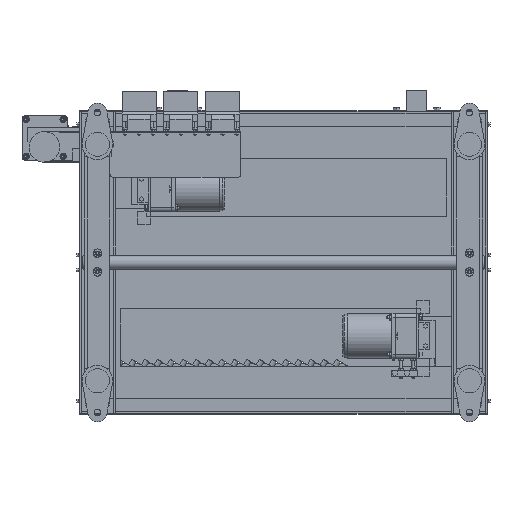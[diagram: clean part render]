
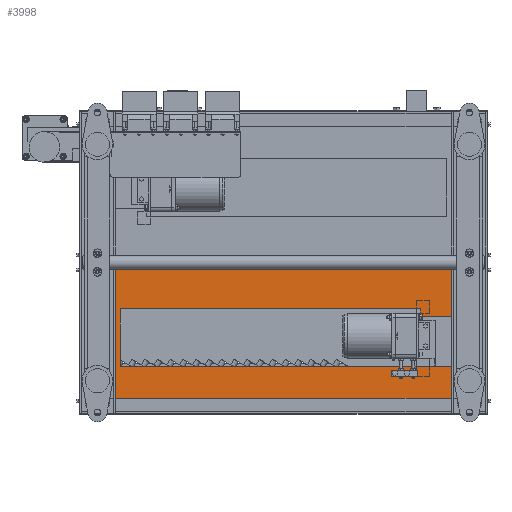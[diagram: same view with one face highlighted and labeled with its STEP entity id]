
A CAD part, front view. The second image highlights one B-rep face of the part: STEP entity #3998.
In plain terms, the highlighted planar face has unit normal (0, -1, 0).
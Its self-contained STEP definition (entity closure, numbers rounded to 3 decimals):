
#3998=ADVANCED_FACE('',(#12672,#12673),#12671,.F.);
#12671=PLANE('',#39715);
#12672=FACE_OUTER_BOUND('',#39716,.T.);
#12673=FACE_BOUND('',#39717,.T.);
#39712=CARTESIAN_POINT('',(817.,-93.,-307.));
#39713=DIRECTION('',(0.,1.,0.));
#39714=DIRECTION('',(-1.,0.,0.));
#39715=AXIS2_PLACEMENT_3D('',#39712,#39713,#39714);
#39716=EDGE_LOOP('',(#57392,#57393,#57394,#57395));
#39717=EDGE_LOOP('',(#57396,#57397,#57398,#57399,#57400,#57401));
#57392=ORIENTED_EDGE('',*,*,#70887,.T.);
#57393=ORIENTED_EDGE('',*,*,#70888,.F.);
#57394=ORIENTED_EDGE('',*,*,#70889,.F.);
#57395=ORIENTED_EDGE('',*,*,#70890,.T.);
#57396=ORIENTED_EDGE('',*,*,#70875,.T.);
#57397=ORIENTED_EDGE('',*,*,#70878,.T.);
#57398=ORIENTED_EDGE('',*,*,#70881,.T.);
#57399=ORIENTED_EDGE('',*,*,#70884,.T.);
#57400=ORIENTED_EDGE('',*,*,#70886,.T.);
#57401=ORIENTED_EDGE('',*,*,#70872,.T.);
#70872=EDGE_CURVE('',#88299,#88313,#88320,.T.);
#70875=EDGE_CURVE('',#88313,#88333,#88340,.T.);
#70878=EDGE_CURVE('',#88333,#88353,#88360,.T.);
#70881=EDGE_CURVE('',#88353,#88373,#88380,.T.);
#70884=EDGE_CURVE('',#88373,#88393,#88400,.T.);
#70886=EDGE_CURVE('',#88393,#88299,#88412,.T.);
#70887=EDGE_CURVE('',#88418,#88419,#88420,.T.);
#70888=EDGE_CURVE('',#88426,#88419,#88427,.T.);
#70889=EDGE_CURVE('',#88433,#88426,#88434,.T.);
#70890=EDGE_CURVE('',#88433,#88418,#88440,.T.);
#88299=VERTEX_POINT('',#134370);
#88313=VERTEX_POINT('',#134378);
#88320=LINE('',#134382,#134383);
#88333=VERTEX_POINT('',#134389);
#88340=LINE('',#134393,#134394);
#88353=VERTEX_POINT('',#134400);
#88360=LINE('',#134404,#134405);
#88373=VERTEX_POINT('',#134411);
#88380=LINE('',#134415,#134416);
#88393=VERTEX_POINT('',#134422);
#88400=LINE('',#134426,#134427);
#88412=LINE('',#134432,#134433);
#88418=VERTEX_POINT('',#134435);
#88419=VERTEX_POINT('',#134436);
#88420=LINE('',#134437,#134438);
#88426=VERTEX_POINT('',#134440);
#88427=LINE('',#134441,#134442);
#88433=VERTEX_POINT('',#134444);
#88434=LINE('',#134445,#134446);
#88440=LINE('',#134448,#134449);
#134370=CARTESIAN_POINT('',(80.,-93.,-92.));
#134378=CARTESIAN_POINT('',(677.,-93.,-92.));
#134382=CARTESIAN_POINT('',(80.,-93.,-92.));
#134383=VECTOR('',#134384,597.);
#134384=DIRECTION('',(1.,0.,0.));
#134389=CARTESIAN_POINT('',(677.,-93.,-107.));
#134393=CARTESIAN_POINT('',(677.,-93.,-92.));
#134394=VECTOR('',#134395,15.);
#134395=DIRECTION('',(0.,0.,-1.));
#134400=CARTESIAN_POINT('',(770.,-93.,-107.));
#134404=CARTESIAN_POINT('',(677.,-93.,-107.));
#134405=VECTOR('',#134406,93.);
#134406=DIRECTION('',(1.,0.,0.));
#134411=CARTESIAN_POINT('',(770.,-93.,-207.));
#134415=CARTESIAN_POINT('',(770.,-93.,-107.));
#134416=VECTOR('',#134417,100.);
#134417=DIRECTION('',(0.,0.,-1.));
#134422=CARTESIAN_POINT('',(80.,-93.,-207.));
#134426=CARTESIAN_POINT('',(770.,-93.,-207.));
#134427=VECTOR('',#134428,690.);
#134428=DIRECTION('',(-1.,0.,0.));
#134432=CARTESIAN_POINT('',(80.,-93.,-207.));
#134433=VECTOR('',#134434,115.);
#134434=DIRECTION('',(0.,0.,1.));
#134435=CARTESIAN_POINT('',(807.,-93.,-1.5));
#134436=CARTESIAN_POINT('',(3.,-93.,-1.5));
#134437=CARTESIAN_POINT('',(807.,-93.,-1.5));
#134438=VECTOR('',#134439,804.);
#134439=DIRECTION('',(-1.,0.,0.));
#134440=CARTESIAN_POINT('',(3.,-93.,-297.));
#134441=CARTESIAN_POINT('',(3.,-93.,-297.));
#134442=VECTOR('',#134443,295.5);
#134443=DIRECTION('',(0.,0.,1.));
#134444=CARTESIAN_POINT('',(807.,-93.,-297.));
#134445=CARTESIAN_POINT('',(807.,-93.,-297.));
#134446=VECTOR('',#134447,804.);
#134447=DIRECTION('',(-1.,0.,0.));
#134448=CARTESIAN_POINT('',(807.,-93.,-297.));
#134449=VECTOR('',#134450,295.5);
#134450=DIRECTION('',(0.,0.,1.));
